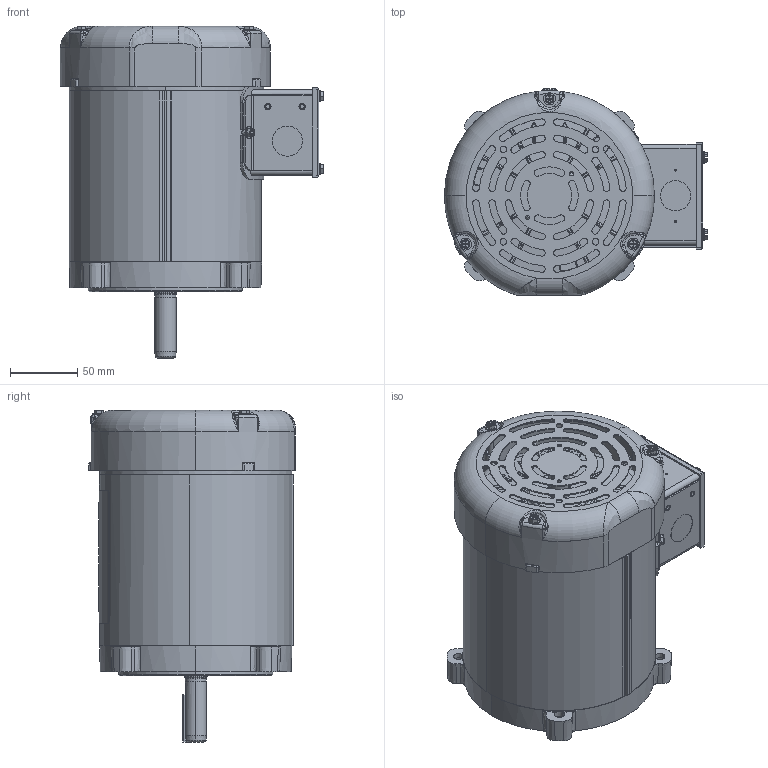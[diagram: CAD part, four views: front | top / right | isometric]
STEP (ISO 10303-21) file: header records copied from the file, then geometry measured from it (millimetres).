
FILE_DESCRIPTION (( 'STEP AP203' ), '1' );
FILE_NAME ('031637-500_Rev02.STEP', '2018-08-08T12:13:32', ( '' ), ( '' ), 'SwSTEP 2.0', 'SolidWorks 2015', '' );
FILE_SCHEMA (( 'CONFIG_CONTROL_DESIGN' ));
Length unit declared in the file: inch
Products named in the file (1): 031637-500_Rev02
Bounding box: 195.09 x 153.18 x 246.12 mm (x, y, z)
Volume: 422177.3 mm3; surface area: 401934.7 mm2
Topology: 27 solids, 27 shells, 3958 faces, 9704 edges, 5750 vertices
Faces by surface type: bspline 1108, plane 1077, cylinder 739, torus 443, cone 397, sphere 194
Entity records: 155401 total; most frequent: CARTESIAN_POINT 70748, ORIENTED_EDGE 19072, DIRECTION 16242, EDGE_CURVE 9536, AXIS2_PLACEMENT_3D 6797, VERTEX_POINT 5746, EDGE_LOOP 4202, ADVANCED_FACE 3958
